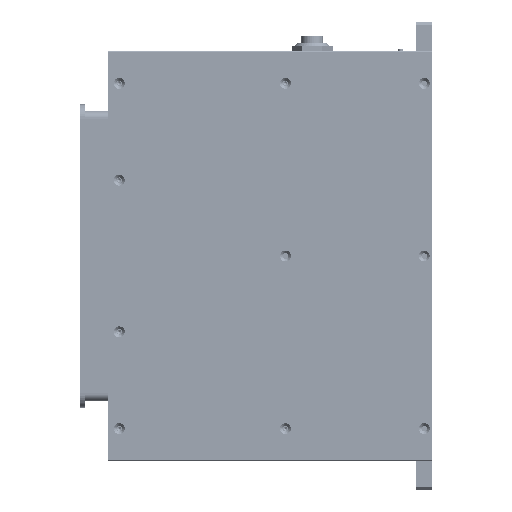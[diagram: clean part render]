
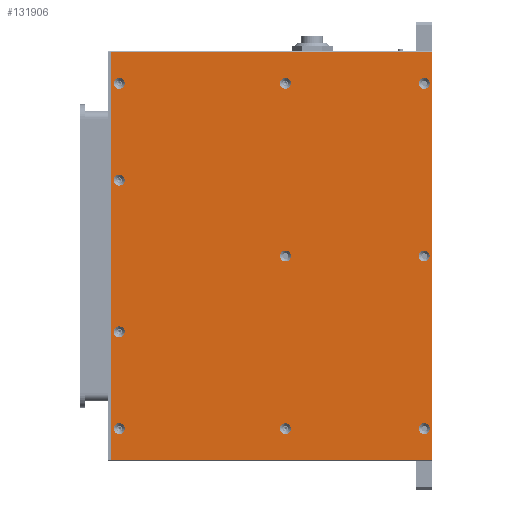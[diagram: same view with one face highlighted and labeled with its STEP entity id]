
A CAD part, front view. The second image highlights one B-rep face of the part: STEP entity #131906.
In plain terms, the highlighted planar face has unit normal (0, -1, 0) as drawn and (0, 0, -1) by its records, which use the part's own axes.
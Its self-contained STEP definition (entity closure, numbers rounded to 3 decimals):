
#8299=FACE_BOUND('',#23257,.T.);
#8300=FACE_BOUND('',#23258,.T.);
#8301=FACE_BOUND('',#23259,.T.);
#8302=FACE_BOUND('',#23260,.T.);
#8303=FACE_BOUND('',#23261,.T.);
#8304=FACE_BOUND('',#23262,.T.);
#8305=FACE_BOUND('',#23263,.T.);
#8306=FACE_BOUND('',#23264,.T.);
#8307=FACE_BOUND('',#23265,.T.);
#8308=FACE_BOUND('',#23266,.T.);
#9798=PLANE('',#140239);
#15842=FACE_OUTER_BOUND('',#23256,.T.);
#23256=EDGE_LOOP('',(#99171,#99172,#99173,#99174));
#23257=EDGE_LOOP('',(#99175,#99176));
#23258=EDGE_LOOP('',(#99177,#99178));
#23259=EDGE_LOOP('',(#99179,#99180));
#23260=EDGE_LOOP('',(#99181,#99182));
#23261=EDGE_LOOP('',(#99183,#99184));
#23262=EDGE_LOOP('',(#99185,#99186));
#23263=EDGE_LOOP('',(#99187,#99188));
#23264=EDGE_LOOP('',(#99189,#99190));
#23265=EDGE_LOOP('',(#99191,#99192));
#23266=EDGE_LOOP('',(#99193,#99194));
#31924=LINE('',#189279,#45567);
#31928=LINE('',#189288,#45571);
#31934=LINE('',#189299,#45577);
#31958=LINE('',#189446,#45601);
#45567=VECTOR('',#152461,10.);
#45571=VECTOR('',#152469,10.);
#45577=VECTOR('',#152477,10.);
#45601=VECTOR('',#152645,10.);
#57744=CIRCLE('',#140168,3.4);
#57745=CIRCLE('',#140169,3.4);
#57749=CIRCLE('',#140175,3.4);
#57750=CIRCLE('',#140176,3.4);
#57754=CIRCLE('',#140182,3.4);
#57755=CIRCLE('',#140183,3.4);
#57759=CIRCLE('',#140189,3.4);
#57760=CIRCLE('',#140190,3.4);
#57764=CIRCLE('',#140196,3.4);
#57765=CIRCLE('',#140197,3.4);
#57769=CIRCLE('',#140203,3.4);
#57770=CIRCLE('',#140204,3.4);
#57774=CIRCLE('',#140210,3.4);
#57775=CIRCLE('',#140211,3.4);
#57779=CIRCLE('',#140217,3.4);
#57780=CIRCLE('',#140218,3.4);
#57784=CIRCLE('',#140224,3.4);
#57785=CIRCLE('',#140225,3.4);
#57789=CIRCLE('',#140231,3.4);
#57790=CIRCLE('',#140232,3.4);
#62128=VERTEX_POINT('',#189272);
#62131=VERTEX_POINT('',#189277);
#62134=VERTEX_POINT('',#189287);
#62137=VERTEX_POINT('',#189295);
#62140=VERTEX_POINT('',#189305);
#62141=VERTEX_POINT('',#189306);
#62145=VERTEX_POINT('',#189319);
#62146=VERTEX_POINT('',#189320);
#62150=VERTEX_POINT('',#189333);
#62151=VERTEX_POINT('',#189334);
#62155=VERTEX_POINT('',#189347);
#62156=VERTEX_POINT('',#189348);
#62160=VERTEX_POINT('',#189361);
#62161=VERTEX_POINT('',#189362);
#62165=VERTEX_POINT('',#189375);
#62166=VERTEX_POINT('',#189376);
#62170=VERTEX_POINT('',#189389);
#62171=VERTEX_POINT('',#189390);
#62175=VERTEX_POINT('',#189403);
#62176=VERTEX_POINT('',#189404);
#62180=VERTEX_POINT('',#189417);
#62181=VERTEX_POINT('',#189418);
#62185=VERTEX_POINT('',#189431);
#62186=VERTEX_POINT('',#189432);
#76218=EDGE_CURVE('',#62131,#62128,#31924,.T.);
#76222=EDGE_CURVE('',#62128,#62134,#31928,.T.);
#76228=EDGE_CURVE('',#62134,#62137,#31934,.T.);
#76231=EDGE_CURVE('',#62140,#62141,#57744,.T.);
#76232=EDGE_CURVE('',#62141,#62140,#57745,.T.);
#76238=EDGE_CURVE('',#62145,#62146,#57749,.T.);
#76239=EDGE_CURVE('',#62146,#62145,#57750,.T.);
#76245=EDGE_CURVE('',#62150,#62151,#57754,.T.);
#76246=EDGE_CURVE('',#62151,#62150,#57755,.T.);
#76252=EDGE_CURVE('',#62155,#62156,#57759,.T.);
#76253=EDGE_CURVE('',#62156,#62155,#57760,.T.);
#76259=EDGE_CURVE('',#62160,#62161,#57764,.T.);
#76260=EDGE_CURVE('',#62161,#62160,#57765,.T.);
#76266=EDGE_CURVE('',#62165,#62166,#57769,.T.);
#76267=EDGE_CURVE('',#62166,#62165,#57770,.T.);
#76273=EDGE_CURVE('',#62170,#62171,#57774,.T.);
#76274=EDGE_CURVE('',#62171,#62170,#57775,.T.);
#76280=EDGE_CURVE('',#62175,#62176,#57779,.T.);
#76281=EDGE_CURVE('',#62176,#62175,#57780,.T.);
#76287=EDGE_CURVE('',#62180,#62181,#57784,.T.);
#76288=EDGE_CURVE('',#62181,#62180,#57785,.T.);
#76294=EDGE_CURVE('',#62185,#62186,#57789,.T.);
#76295=EDGE_CURVE('',#62186,#62185,#57790,.T.);
#76302=EDGE_CURVE('',#62137,#62131,#31958,.T.);
#99171=ORIENTED_EDGE('',*,*,#76218,.F.);
#99172=ORIENTED_EDGE('',*,*,#76302,.F.);
#99173=ORIENTED_EDGE('',*,*,#76228,.F.);
#99174=ORIENTED_EDGE('',*,*,#76222,.F.);
#99175=ORIENTED_EDGE('',*,*,#76231,.T.);
#99176=ORIENTED_EDGE('',*,*,#76232,.T.);
#99177=ORIENTED_EDGE('',*,*,#76238,.T.);
#99178=ORIENTED_EDGE('',*,*,#76239,.T.);
#99179=ORIENTED_EDGE('',*,*,#76245,.T.);
#99180=ORIENTED_EDGE('',*,*,#76246,.T.);
#99181=ORIENTED_EDGE('',*,*,#76252,.T.);
#99182=ORIENTED_EDGE('',*,*,#76253,.T.);
#99183=ORIENTED_EDGE('',*,*,#76259,.T.);
#99184=ORIENTED_EDGE('',*,*,#76260,.T.);
#99185=ORIENTED_EDGE('',*,*,#76266,.T.);
#99186=ORIENTED_EDGE('',*,*,#76267,.T.);
#99187=ORIENTED_EDGE('',*,*,#76273,.T.);
#99188=ORIENTED_EDGE('',*,*,#76274,.T.);
#99189=ORIENTED_EDGE('',*,*,#76280,.T.);
#99190=ORIENTED_EDGE('',*,*,#76281,.T.);
#99191=ORIENTED_EDGE('',*,*,#76287,.T.);
#99192=ORIENTED_EDGE('',*,*,#76288,.T.);
#99193=ORIENTED_EDGE('',*,*,#76294,.T.);
#99194=ORIENTED_EDGE('',*,*,#76295,.T.);
#131906=ADVANCED_FACE('',(#15842,#8299,#8300,#8301,#8302,#8303,#8304,#8305,
#8306,#8307,#8308),#9798,.F.);
#140168=AXIS2_PLACEMENT_3D('',#189307,#152484,#152485);
#140169=AXIS2_PLACEMENT_3D('',#189308,#152486,#152487);
#140175=AXIS2_PLACEMENT_3D('',#189321,#152500,#152501);
#140176=AXIS2_PLACEMENT_3D('',#189322,#152502,#152503);
#140182=AXIS2_PLACEMENT_3D('',#189335,#152516,#152517);
#140183=AXIS2_PLACEMENT_3D('',#189336,#152518,#152519);
#140189=AXIS2_PLACEMENT_3D('',#189349,#152532,#152533);
#140190=AXIS2_PLACEMENT_3D('',#189350,#152534,#152535);
#140196=AXIS2_PLACEMENT_3D('',#189363,#152548,#152549);
#140197=AXIS2_PLACEMENT_3D('',#189364,#152550,#152551);
#140203=AXIS2_PLACEMENT_3D('',#189377,#152564,#152565);
#140204=AXIS2_PLACEMENT_3D('',#189378,#152566,#152567);
#140210=AXIS2_PLACEMENT_3D('',#189391,#152580,#152581);
#140211=AXIS2_PLACEMENT_3D('',#189392,#152582,#152583);
#140217=AXIS2_PLACEMENT_3D('',#189405,#152596,#152597);
#140218=AXIS2_PLACEMENT_3D('',#189406,#152598,#152599);
#140224=AXIS2_PLACEMENT_3D('',#189419,#152612,#152613);
#140225=AXIS2_PLACEMENT_3D('',#189420,#152614,#152615);
#140231=AXIS2_PLACEMENT_3D('',#189433,#152628,#152629);
#140232=AXIS2_PLACEMENT_3D('',#189434,#152630,#152631);
#140239=AXIS2_PLACEMENT_3D('',#189448,#152648,#152649);
#152461=DIRECTION('',(0.,1.,0.));
#152469=DIRECTION('',(-1.,0.,0.));
#152477=DIRECTION('',(0.,-1.,0.));
#152484=DIRECTION('center_axis',(0.,0.,1.));
#152485=DIRECTION('ref_axis',(-1.,0.,0.));
#152486=DIRECTION('center_axis',(0.,0.,1.));
#152487=DIRECTION('ref_axis',(-1.,0.,0.));
#152500=DIRECTION('center_axis',(0.,0.,1.));
#152501=DIRECTION('ref_axis',(-1.,0.,0.));
#152502=DIRECTION('center_axis',(0.,0.,1.));
#152503=DIRECTION('ref_axis',(-1.,0.,0.));
#152516=DIRECTION('center_axis',(0.,0.,1.));
#152517=DIRECTION('ref_axis',(-1.,0.,0.));
#152518=DIRECTION('center_axis',(0.,0.,1.));
#152519=DIRECTION('ref_axis',(-1.,0.,0.));
#152532=DIRECTION('center_axis',(0.,0.,1.));
#152533=DIRECTION('ref_axis',(-1.,0.,0.));
#152534=DIRECTION('center_axis',(0.,0.,1.));
#152535=DIRECTION('ref_axis',(-1.,0.,0.));
#152548=DIRECTION('center_axis',(0.,0.,1.));
#152549=DIRECTION('ref_axis',(-1.,0.,0.));
#152550=DIRECTION('center_axis',(0.,0.,1.));
#152551=DIRECTION('ref_axis',(-1.,0.,0.));
#152564=DIRECTION('center_axis',(0.,0.,1.));
#152565=DIRECTION('ref_axis',(-1.,0.,0.));
#152566=DIRECTION('center_axis',(0.,0.,1.));
#152567=DIRECTION('ref_axis',(-1.,0.,0.));
#152580=DIRECTION('center_axis',(0.,0.,1.));
#152581=DIRECTION('ref_axis',(-1.,0.,0.));
#152582=DIRECTION('center_axis',(0.,0.,1.));
#152583=DIRECTION('ref_axis',(-1.,0.,0.));
#152596=DIRECTION('center_axis',(0.,0.,1.));
#152597=DIRECTION('ref_axis',(-1.,0.,0.));
#152598=DIRECTION('center_axis',(0.,0.,1.));
#152599=DIRECTION('ref_axis',(-1.,0.,0.));
#152612=DIRECTION('center_axis',(0.,0.,1.));
#152613=DIRECTION('ref_axis',(-1.,0.,0.));
#152614=DIRECTION('center_axis',(0.,0.,1.));
#152615=DIRECTION('ref_axis',(-1.,0.,0.));
#152628=DIRECTION('center_axis',(0.,0.,1.));
#152629=DIRECTION('ref_axis',(-1.,0.,0.));
#152630=DIRECTION('center_axis',(0.,0.,1.));
#152631=DIRECTION('ref_axis',(-1.,0.,0.));
#152645=DIRECTION('',(1.,0.,0.));
#152648=DIRECTION('center_axis',(0.,0.,1.));
#152649=DIRECTION('ref_axis',(1.,0.,0.));
#189272=CARTESIAN_POINT('',(126.5,99.5,0.));
#189277=CARTESIAN_POINT('',(126.5,-99.5,0.));
#189279=CARTESIAN_POINT('',(126.5,-49.75,0.));
#189287=CARTESIAN_POINT('',(-126.5,99.5,0.));
#189288=CARTESIAN_POINT('',(127.,99.5,0.));
#189295=CARTESIAN_POINT('',(-126.5,-99.5,0.));
#189299=CARTESIAN_POINT('',(-126.5,49.75,0.));
#189305=CARTESIAN_POINT('',(-50.4,-94.5,0.));
#189306=CARTESIAN_POINT('',(-43.6,-94.5,0.));
#189307=CARTESIAN_POINT('Origin',(-47.,-94.5,0.));
#189308=CARTESIAN_POINT('Origin',(-47.,-94.5,0.));
#189319=CARTESIAN_POINT('',(103.6,-94.5,0.));
#189320=CARTESIAN_POINT('',(110.4,-94.5,0.));
#189321=CARTESIAN_POINT('Origin',(107.,-94.5,0.));
#189322=CARTESIAN_POINT('Origin',(107.,-94.5,0.));
#189333=CARTESIAN_POINT('',(-110.4,8.5,0.));
#189334=CARTESIAN_POINT('',(-103.6,8.5,0.));
#189335=CARTESIAN_POINT('Origin',(-107.,8.5,0.));
#189336=CARTESIAN_POINT('Origin',(-107.,8.5,0.));
#189347=CARTESIAN_POINT('',(-3.4,8.5,0.));
#189348=CARTESIAN_POINT('',(3.4,8.5,0.));
#189349=CARTESIAN_POINT('Origin',(0.,8.5,0.));
#189350=CARTESIAN_POINT('Origin',(0.,8.5,0.));
#189361=CARTESIAN_POINT('',(-110.4,94.5,0.));
#189362=CARTESIAN_POINT('',(-103.6,94.5,0.));
#189363=CARTESIAN_POINT('Origin',(-107.,94.5,0.));
#189364=CARTESIAN_POINT('Origin',(-107.,94.5,0.));
#189375=CARTESIAN_POINT('',(103.6,94.5,0.));
#189376=CARTESIAN_POINT('',(110.4,94.5,0.));
#189377=CARTESIAN_POINT('Origin',(107.,94.5,0.));
#189378=CARTESIAN_POINT('Origin',(107.,94.5,0.));
#189389=CARTESIAN_POINT('',(-110.4,-94.5,0.));
#189390=CARTESIAN_POINT('',(-103.6,-94.5,0.));
#189391=CARTESIAN_POINT('Origin',(-107.,-94.5,0.));
#189392=CARTESIAN_POINT('Origin',(-107.,-94.5,0.));
#189403=CARTESIAN_POINT('',(103.6,8.5,0.));
#189404=CARTESIAN_POINT('',(110.4,8.5,0.));
#189405=CARTESIAN_POINT('Origin',(107.,8.5,0.));
#189406=CARTESIAN_POINT('Origin',(107.,8.5,0.));
#189417=CARTESIAN_POINT('',(-3.4,94.5,0.));
#189418=CARTESIAN_POINT('',(3.4,94.5,0.));
#189419=CARTESIAN_POINT('Origin',(0.,94.5,0.));
#189420=CARTESIAN_POINT('Origin',(0.,94.5,0.));
#189431=CARTESIAN_POINT('',(43.6,-94.5,0.));
#189432=CARTESIAN_POINT('',(50.4,-94.5,0.));
#189433=CARTESIAN_POINT('Origin',(47.,-94.5,0.));
#189434=CARTESIAN_POINT('Origin',(47.,-94.5,0.));
#189446=CARTESIAN_POINT('',(-127.,-99.5,0.));
#189448=CARTESIAN_POINT('Origin',(0.,0.,
0.));
